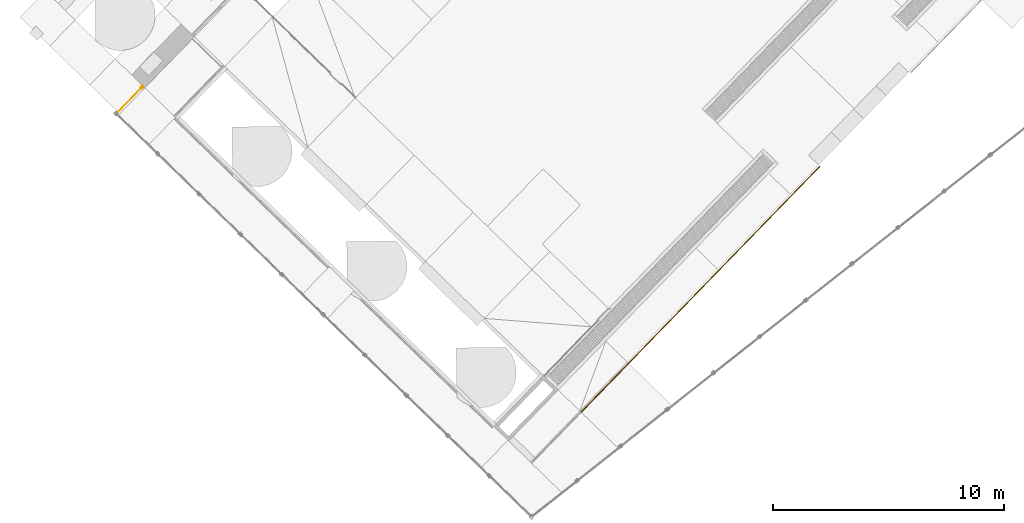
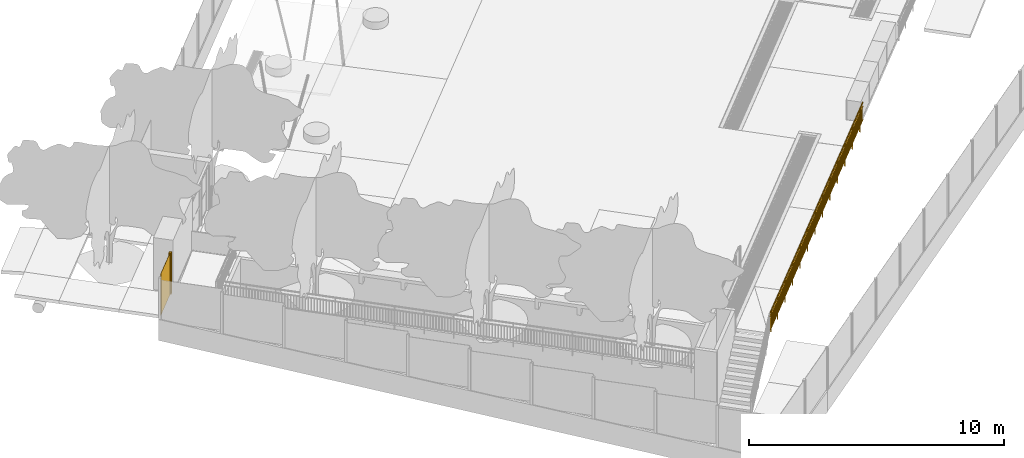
# One storey, part 25 of 37: 2 railings.
"""IFC2X3 building model written with IfcOpenShell, lengths in centimetres."""

from ifc_helpers import new_model, entity, si_unit, converted_unit, derived_unit, direction, frame, frame_2d, origin, origin_2d_with_axis, place, context, subcontext, project, spatial, rectangle, circle, extrude, material, material_list, element, save


model = new_model("IFC2X3")

# Units and contexts
model_context = context("Model", 3, precision=0.001, world=origin(), true_north=direction((0.717475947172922, 0.696583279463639)))
body_context = subcontext(model_context, "Body", "Model", "MODEL_VIEW")
ifc_project = project(units=[si_unit("LENGTHUNIT", "METRE", prefix="CENTI"), si_unit("AREAUNIT", "SQUARE_METRE"), si_unit("VOLUMEUNIT", "CUBIC_METRE"), converted_unit("PLANEANGLEUNIT", "DEGREE", entity("IfcRatioMeasure", 0.0174532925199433), si_unit("PLANEANGLEUNIT", "RADIAN"), dimensions=[0, 0, 0, 0, 0, 0, 0]), si_unit("MASSUNIT", "GRAM", prefix="KILO"), derived_unit("MASSDENSITYUNIT", [(si_unit("MASSUNIT", "GRAM", prefix="KILO"), 1), (si_unit("LENGTHUNIT", "METRE"), -3)]), si_unit("TIMEUNIT", "SECOND"), si_unit("FREQUENCYUNIT", "HERTZ"), si_unit("THERMODYNAMICTEMPERATUREUNIT", "DEGREE_CELSIUS"), derived_unit("THERMALTRANSMITTANCEUNIT", [(si_unit("MASSUNIT", "GRAM", prefix="KILO"), 1), (si_unit("THERMODYNAMICTEMPERATUREUNIT", "KELVIN"), -1), (si_unit("TIMEUNIT", "SECOND"), -3)]), derived_unit("VOLUMETRICFLOWRATEUNIT", [(si_unit("LENGTHUNIT", "METRE"), 3), (si_unit("TIMEUNIT", "SECOND"), -1)]), si_unit("ELECTRICCURRENTUNIT", "AMPERE"), si_unit("ELECTRICVOLTAGEUNIT", "VOLT"), si_unit("POWERUNIT", "WATT"), si_unit("FORCEUNIT", "NEWTON", prefix="KILO"), si_unit("ILLUMINANCEUNIT", "LUX"), si_unit("LUMINOUSFLUXUNIT", "LUMEN"), si_unit("LUMINOUSINTENSITYUNIT", "CANDELA"), derived_unit("USERDEFINED", [(si_unit("MASSUNIT", "GRAM", prefix="KILO"), -1), (si_unit("LENGTHUNIT", "METRE"), -2), (si_unit("TIMEUNIT", "SECOND"), 3), (si_unit("LUMINOUSFLUXUNIT", "LUMEN"), 1)]), derived_unit("LINEARVELOCITYUNIT", [(si_unit("LENGTHUNIT", "METRE"), 1), (si_unit("TIMEUNIT", "SECOND"), -1)]), si_unit("PRESSUREUNIT", "PASCAL"), derived_unit("USERDEFINED", [(si_unit("LENGTHUNIT", "METRE"), -2), (si_unit("MASSUNIT", "GRAM", prefix="KILO"), 1), (si_unit("TIMEUNIT", "SECOND"), -2)])], contexts=[model_context])

# Site, building, storey
site_placement = place(None, frame((0.0, 0.0, 0.0), z_axis=(0.0, 0.0, 1.0), x_axis=(0.696583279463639, 0.717475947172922, 0.0)))
site = spatial("IfcSite", under=ifc_project, at=site_placement, Name="Surface", CompositionType="ELEMENT")
building_placement = place(site_placement, origin())
building = spatial("IfcBuilding", under=site, at=building_placement, CompositionType="ELEMENT")
storey_placement = place(building_placement, origin())
storey = spatial("IfcBuildingStorey", under=building, at=storey_placement, Name="Nivel 0.00", CompositionType="ELEMENT", Elevation=0.0)

# Railings
ifc_material_1 = material(Name="Aluminum")
railing_1_placement = place(storey_placement, origin())
element("IfcRailing", 1, at=railing_1_placement, inside=storey, material=ifc_material_1, Name="Railing:BARANDA_RAMPA_1000mm", ObjectType="Railing:BARANDA_RAMPA_1000mm", PredefinedType="NOTDEFINED", context=body_context, shape_type="SweptSolid", body=[
    extrude(rectangle(XDim=1.2, YDim=4.99999999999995, at=frame_2d((2.70894418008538e-14, 0.0), x_axis=(1.0, 0.0))), frame((-429.756929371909, -1572.80755383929, 165.0)), (0.0, 0.0, 1.0), 63.7999999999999),
    extrude(rectangle(XDim=1.2, YDim=4.99999999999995, at=frame_2d((2.70894418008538e-14, 0.0), x_axis=(1.0, 0.0))), frame((-441.756929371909, -1572.80755383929, 165.0)), (0.0, 0.0, 1.0), 63.7999999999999),
    extrude(rectangle(XDim=1.2, YDim=4.99999999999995, at=frame_2d((2.70894418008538e-14, 0.0), x_axis=(1.0, 0.0))), frame((-453.756929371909, -1572.80755383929, 165.0)), (0.0, 0.0, 1.0), 63.7999999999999),
    extrude(rectangle(XDim=1.2, YDim=4.99999999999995, at=frame_2d((2.70894418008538e-14, 0.0), x_axis=(1.0, 0.0))), frame((-465.756929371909, -1572.80755383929, 135.0)), (0.0, 0.0, 1.0), 110.0),
    extrude(rectangle(XDim=1.2, YDim=4.99999999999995, at=frame_2d((2.70894418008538e-14, 0.0), x_axis=(1.0, 0.0))), frame((-477.756929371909, -1572.80755383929, 165.0)), (0.0, 0.0, 1.0), 63.7999999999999),
    extrude(rectangle(XDim=1.20000000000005, YDim=4.99999999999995, at=frame_2d((5.41233724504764e-14, 0.0), x_axis=(1.0, 0.0))), frame((-489.756929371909, -1572.80755383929, 165.0)), (0.0, 0.0, 1.0), 63.7999999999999),
    extrude(rectangle(XDim=1.20000000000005, YDim=4.99999999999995, at=frame_2d((5.41233724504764e-14, 0.0), x_axis=(1.0, 0.0))), frame((-501.756929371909, -1572.80755383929, 165.0)), (0.0, 0.0, 1.0), 63.7999999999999),
    extrude(rectangle(XDim=1.20000000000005, YDim=4.99999999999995, at=frame_2d((5.41233724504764e-14, 0.0), x_axis=(1.0, 0.0))), frame((-513.756929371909, -1572.80755383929, 165.0)), (0.0, 0.0, 1.0), 63.7999999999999),
    extrude(rectangle(XDim=1.20000000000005, YDim=4.99999999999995, at=frame_2d((5.41233724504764e-14, 0.0), x_axis=(1.0, 0.0))), frame((-525.756929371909, -1572.80755383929, 165.0)), (0.0, 0.0, 1.0), 63.7999999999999),
    extrude(rectangle(XDim=1.20000000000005, YDim=4.99999999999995, at=frame_2d((5.41233724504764e-14, 0.0), x_axis=(1.0, 0.0))), frame((-537.756929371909, -1572.80755383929, 165.0)), (0.0, 0.0, 1.0), 63.7999999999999),
    extrude(rectangle(XDim=1.20000000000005, YDim=4.99999999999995, at=frame_2d((5.41233724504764e-14, 0.0), x_axis=(1.0, 0.0))), frame((-549.756929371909, -1572.80755383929, 165.0)), (0.0, 0.0, 1.0), 63.7999999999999),
    extrude(rectangle(XDim=1.20000000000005, YDim=4.99999999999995, at=frame_2d((5.41233724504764e-14, 0.0), x_axis=(1.0, 0.0))), frame((-561.756929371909, -1572.80755383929, 165.0)), (0.0, 0.0, 1.0), 63.7999999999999),
    extrude(rectangle(XDim=1.20000000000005, YDim=4.99999999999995, at=frame_2d((5.41233724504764e-14, 0.0), x_axis=(1.0, 0.0))), frame((-573.756929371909, -1572.80755383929, 165.0)), (0.0, 0.0, 1.0), 63.7999999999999),
    extrude(rectangle(XDim=1.20000000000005, YDim=4.99999999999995, at=frame_2d((5.41233724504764e-14, 2.16715534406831e-13), x_axis=(1.0, 0.0))), frame((-585.756929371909, -1572.80755383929, 135.0)), (0.0, 0.0, 1.0), 110.0),
    extrude(rectangle(XDim=1.20000000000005, YDim=4.99999999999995, at=frame_2d((5.41233724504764e-14, 2.16715534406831e-13), x_axis=(1.0, 0.0))), frame((-597.756929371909, -1572.80755383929, 165.0)), (0.0, 0.0, 1.0), 63.7999999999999),
    extrude(rectangle(XDim=1.20000000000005, YDim=4.99999999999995, at=frame_2d((5.41233724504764e-14, 2.16715534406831e-13), x_axis=(1.0, 0.0))), frame((-609.756929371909, -1572.80755383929, 165.0)), (0.0, 0.0, 1.0), 63.7999999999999),
    extrude(rectangle(XDim=1.20000000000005, YDim=4.99999999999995, at=frame_2d((5.41233724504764e-14, 2.16715534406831e-13), x_axis=(1.0, 0.0))), frame((-621.756929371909, -1572.80755383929, 165.0)), (0.0, 0.0, 1.0), 63.7999999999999),
    extrude(rectangle(XDim=1.20000000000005, YDim=4.99999999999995, at=frame_2d((5.41233724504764e-14, 2.16715534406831e-13), x_axis=(1.0, 0.0))), frame((-633.756929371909, -1572.80755383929, 165.0)), (0.0, 0.0, 1.0), 63.7999999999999),
    extrude(rectangle(XDim=1.20000000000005, YDim=4.99999999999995, at=frame_2d((5.41233724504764e-14, 2.16715534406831e-13), x_axis=(1.0, 0.0))), frame((-645.756929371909, -1572.80755383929, 165.0)), (0.0, 0.0, 1.0), 63.7999999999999),
    extrude(rectangle(XDim=1.20000000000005, YDim=4.99999999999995, at=frame_2d((5.41233724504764e-14, 2.16715534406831e-13), x_axis=(1.0, 0.0))), frame((-657.756929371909, -1572.80755383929, 165.0)), (0.0, 0.0, 1.0), 63.7999999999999),
    extrude(rectangle(XDim=1.20000000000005, YDim=4.99999999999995, at=frame_2d((5.41233724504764e-14, 2.16715534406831e-13), x_axis=(1.0, 0.0))), frame((-669.756929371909, -1572.80755383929, 165.0)), (0.0, 0.0, 1.0), 63.7999999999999),
    extrude(rectangle(XDim=1.20000000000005, YDim=4.99999999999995, at=frame_2d((-5.41233724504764e-14, 2.16715534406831e-13), x_axis=(1.0, 0.0))), frame((-681.756929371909, -1572.80755383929, 165.0)), (0.0, 0.0, 1.0), 63.7999999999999),
    extrude(rectangle(XDim=1.20000000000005, YDim=4.99999999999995, at=frame_2d((-5.41233724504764e-14, 2.16715534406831e-13), x_axis=(1.0, 0.0))), frame((-693.756929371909, -1572.80755383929, 165.0)), (0.0, 0.0, 1.0), 63.7999999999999),
    extrude(rectangle(XDim=1.20000000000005, YDim=4.99999999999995, at=frame_2d((5.41233724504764e-14, 2.16715534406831e-13), x_axis=(1.0, 0.0))), frame((-705.756929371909, -1572.80755383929, 135.0)), (0.0, 0.0, 1.0), 110.0),
    extrude(rectangle(XDim=1.20000000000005, YDim=4.99999999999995, at=frame_2d((5.41233724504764e-14, 2.16715534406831e-13), x_axis=(1.0, 0.0))), frame((-717.756929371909, -1572.80755383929, 165.0)), (0.0, 0.0, 1.0), 63.7999999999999),
    extrude(rectangle(XDim=1.20000000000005, YDim=4.99999999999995, at=frame_2d((5.41233724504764e-14, 2.16715534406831e-13), x_axis=(1.0, 0.0))), frame((-729.756929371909, -1572.80755383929, 165.0)), (0.0, 0.0, 1.0), 63.7999999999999),
    extrude(rectangle(XDim=1.20000000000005, YDim=4.99999999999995, at=frame_2d((5.41233724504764e-14, 2.16715534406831e-13), x_axis=(1.0, 0.0))), frame((-741.756929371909, -1572.80755383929, 165.0)), (0.0, 0.0, 1.0), 63.7999999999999),
    extrude(rectangle(XDim=1.20000000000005, YDim=4.99999999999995, at=frame_2d((5.41233724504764e-14, 2.16715534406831e-13), x_axis=(1.0, 0.0))), frame((-753.756929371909, -1572.80755383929, 165.0)), (0.0, 0.0, 1.0), 63.7999999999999),
    extrude(rectangle(XDim=1.20000000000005, YDim=4.99999999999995, at=frame_2d((-5.41233724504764e-14, 2.16715534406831e-13), x_axis=(1.0, 0.0))), frame((-765.756929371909, -1572.80755383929, 165.0)), (0.0, 0.0, 1.0), 63.7999999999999),
    extrude(rectangle(XDim=1.20000000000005, YDim=4.99999999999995, at=frame_2d((5.41233724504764e-14, 2.16715534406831e-13), x_axis=(1.0, 0.0))), frame((-777.756929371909, -1572.80755383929, 165.0)), (0.0, 0.0, 1.0), 63.7999999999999),
    extrude(rectangle(XDim=1.20000000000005, YDim=4.99999999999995, at=frame_2d((5.41233724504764e-14, 2.16715534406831e-13), x_axis=(1.0, 0.0))), frame((-789.756929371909, -1572.80755383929, 165.0)), (0.0, 0.0, 1.0), 63.7999999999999),
    extrude(rectangle(XDim=1.20000000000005, YDim=4.99999999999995, at=frame_2d((5.41233724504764e-14, 2.16715534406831e-13), x_axis=(1.0, 0.0))), frame((-801.756929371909, -1572.80755383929, 165.0)), (0.0, 0.0, 1.0), 63.7999999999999),
    extrude(rectangle(XDim=1.20000000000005, YDim=4.99999999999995, at=frame_2d((5.41233724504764e-14, 2.16715534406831e-13), x_axis=(1.0, 0.0))), frame((-813.756929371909, -1572.80755383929, 165.0)), (0.0, 0.0, 1.0), 63.7999999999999),
    extrude(rectangle(XDim=1.20000000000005, YDim=4.99999999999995, at=frame_2d((5.41233724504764e-14, 2.16715534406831e-13), x_axis=(1.0, 0.0))), frame((-825.756929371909, -1572.80755383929, 135.0)), (0.0, 0.0, 1.0), 110.0),
    extrude(rectangle(XDim=1.20000000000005, YDim=4.99999999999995, at=frame_2d((-5.41233724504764e-14, 2.16715534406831e-13), x_axis=(1.0, 0.0))), frame((-837.756929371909, -1572.80755383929, 165.0)), (0.0, 0.0, 1.0), 63.7999999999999),
    extrude(rectangle(XDim=1.20000000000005, YDim=4.99999999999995, at=frame_2d((-5.41233724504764e-14, 2.16715534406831e-13), x_axis=(1.0, 0.0))), frame((-849.756929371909, -1572.80755383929, 165.0)), (0.0, 0.0, 1.0), 63.7999999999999),
    extrude(rectangle(XDim=1.20000000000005, YDim=4.99999999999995, at=frame_2d((5.41233724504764e-14, 2.16715534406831e-13), x_axis=(1.0, 0.0))), frame((-861.756929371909, -1572.80755383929, 165.0)), (0.0, 0.0, 1.0), 63.7999999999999),
    extrude(rectangle(XDim=1.20000000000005, YDim=4.99999999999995, at=frame_2d((5.41233724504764e-14, 0.0), x_axis=(1.0, 0.0))), frame((-873.756929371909, -1572.80755383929, 165.0)), (0.0, 0.0, 1.0), 63.7999999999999),
    extrude(rectangle(XDim=1.20000000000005, YDim=4.99999999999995, at=frame_2d((5.41233724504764e-14, 0.0), x_axis=(1.0, 0.0))), frame((-885.756929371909, -1572.80755383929, 165.0)), (0.0, 0.0, 1.0), 63.7999999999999),
    extrude(rectangle(XDim=1.20000000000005, YDim=4.99999999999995, at=frame_2d((5.41233724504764e-14, 0.0), x_axis=(1.0, 0.0))), frame((-897.756929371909, -1572.80755383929, 165.0)), (0.0, 0.0, 1.0), 63.7999999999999),
    extrude(rectangle(XDim=1.20000000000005, YDim=4.99999999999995, at=frame_2d((5.41233724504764e-14, 0.0), x_axis=(1.0, 0.0))), frame((-909.756929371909, -1572.80755383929, 165.0)), (0.0, 0.0, 1.0), 63.7999999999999),
    extrude(rectangle(XDim=1.20000000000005, YDim=4.99999999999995, at=frame_2d((-5.41233724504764e-14, 0.0), x_axis=(1.0, 0.0))), frame((-921.756929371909, -1572.80755383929, 165.0)), (0.0, 0.0, 1.0), 63.7999999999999),
    extrude(rectangle(XDim=1.20000000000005, YDim=4.99999999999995, at=frame_2d((-5.41233724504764e-14, 0.0), x_axis=(1.0, 0.0))), frame((-933.756929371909, -1572.80755383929, 165.0)), (0.0, 0.0, 1.0), 63.7999999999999),
    extrude(rectangle(XDim=1.20000000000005, YDim=4.99999999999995, at=frame_2d((5.41233724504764e-14, 0.0), x_axis=(1.0, 0.0))), frame((-945.756929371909, -1572.80755383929, 135.0)), (0.0, 0.0, 1.0), 110.0),
    extrude(rectangle(XDim=1.20000000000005, YDim=4.99999999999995, at=frame_2d((5.41233724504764e-14, 0.0), x_axis=(1.0, 0.0))), frame((-957.756929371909, -1572.80755383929, 165.0)), (0.0, 0.0, 1.0), 63.7999999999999),
    extrude(rectangle(XDim=1.20000000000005, YDim=4.99999999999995, at=frame_2d((-5.41233724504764e-14, 0.0), x_axis=(1.0, 0.0))), frame((-969.756929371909, -1572.80755383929, 165.0)), (0.0, 0.0, 1.0), 63.7999999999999),
    extrude(rectangle(XDim=1.19999999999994, YDim=4.99999999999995, at=frame_2d((-1.08302256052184e-13, 0.0), x_axis=(1.0, 0.0))), frame((-981.756929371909, -1572.80755383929, 165.0)), (0.0, 0.0, 1.0), 63.7999999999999),
    extrude(rectangle(XDim=1.19999999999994, YDim=4.99999999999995, at=frame_2d((1.08302256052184e-13, 0.0), x_axis=(1.0, 0.0))), frame((-993.756929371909, -1572.80755383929, 165.0)), (0.0, 0.0, 1.0), 63.7999999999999),
    extrude(rectangle(XDim=1.19999999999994, YDim=4.99999999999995, at=frame_2d((1.08302256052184e-13, 0.0), x_axis=(1.0, 0.0))), frame((-1005.75692937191, -1572.80755383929, 165.0)), (0.0, 0.0, 1.0), 63.7999999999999),
    extrude(rectangle(XDim=1.19999999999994, YDim=4.99999999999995, at=frame_2d((-1.08302256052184e-13, 0.0), x_axis=(1.0, 0.0))), frame((-1017.75692937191, -1572.80755383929, 165.0)), (0.0, 0.0, 1.0), 63.7999999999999),
    extrude(rectangle(XDim=1.19999999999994, YDim=4.99999999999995, at=frame_2d((-1.08302256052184e-13, 0.0), x_axis=(1.0, 0.0))), frame((-1029.75692937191, -1572.80755383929, 165.0)), (0.0, 0.0, 1.0), 63.7999999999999),
    extrude(rectangle(XDim=1.19999999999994, YDim=4.99999999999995, at=frame_2d((1.08302256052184e-13, 0.0), x_axis=(1.0, 0.0))), frame((-1041.75692937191, -1572.80755383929, 165.0)), (0.0, 0.0, 1.0), 63.7999999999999),
    extrude(rectangle(XDim=1.19999999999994, YDim=4.99999999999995, at=frame_2d((-1.08302256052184e-13, 0.0), x_axis=(1.0, 0.0))), frame((-1053.75692937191, -1572.80755383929, 165.0)), (0.0, 0.0, 1.0), 63.7999999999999),
    extrude(rectangle(XDim=1.19999999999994, YDim=4.99999999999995, at=frame_2d((-1.08302256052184e-13, 0.0), x_axis=(1.0, 0.0))), frame((-1065.75692937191, -1572.80755383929, 135.0)), (0.0, 0.0, 1.0), 110.0),
    extrude(rectangle(XDim=1.19999999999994, YDim=4.99999999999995, at=frame_2d((-1.08302256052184e-13, 0.0), x_axis=(1.0, 0.0))), frame((-1077.75692937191, -1572.80755383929, 165.0)), (0.0, 0.0, 1.0), 63.7999999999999),
    extrude(rectangle(XDim=1.19999999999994, YDim=4.99999999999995, at=frame_2d((1.08302256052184e-13, 0.0), x_axis=(1.0, 0.0))), frame((-1089.75692937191, -1572.80755383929, 165.0)), (0.0, 0.0, 1.0), 63.7999999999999),
    extrude(rectangle(XDim=1.19999999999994, YDim=4.99999999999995, at=frame_2d((-1.08302256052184e-13, 0.0), x_axis=(1.0, 0.0))), frame((-1101.75692937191, -1572.80755383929, 165.0)), (0.0, 0.0, 1.0), 63.7999999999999),
    extrude(rectangle(XDim=1.19999999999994, YDim=4.99999999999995, at=frame_2d((-1.08302256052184e-13, 0.0), x_axis=(1.0, 0.0))), frame((-1113.75692937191, -1572.80755383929, 165.0)), (0.0, 0.0, 1.0), 63.7999999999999),
    extrude(rectangle(XDim=1.19999999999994, YDim=4.99999999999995, at=frame_2d((1.08302256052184e-13, 0.0), x_axis=(1.0, 0.0))), frame((-1125.75692937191, -1572.80755383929, 165.0)), (0.0, 0.0, 1.0), 63.7999999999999),
    extrude(rectangle(XDim=1.19999999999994, YDim=4.99999999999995, at=frame_2d((-1.08302256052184e-13, 0.0), x_axis=(1.0, 0.0))), frame((-1137.75692937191, -1572.80755383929, 165.0)), (0.0, 0.0, 1.0), 63.7999999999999),
    extrude(rectangle(XDim=1.19999999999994, YDim=4.99999999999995, at=frame_2d((-1.08302256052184e-13, 0.0), x_axis=(1.0, 0.0))), frame((-1149.75692937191, -1572.80755383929, 165.0)), (0.0, 0.0, 1.0), 63.7999999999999),
    extrude(rectangle(XDim=1.19999999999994, YDim=4.99999999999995, at=frame_2d((1.08302256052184e-13, 0.0), x_axis=(1.0, 0.0))), frame((-1161.75692937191, -1572.80755383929, 165.0)), (0.0, 0.0, 1.0), 63.7999999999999),
    extrude(rectangle(XDim=1.19999999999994, YDim=4.99999999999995, at=frame_2d((-1.08302256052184e-13, 0.0), x_axis=(1.0, 0.0))), frame((-1173.75692937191, -1572.80755383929, 165.0)), (0.0, 0.0, 1.0), 63.7999999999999),
    extrude(rectangle(XDim=1.19999999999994, YDim=4.99999999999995, at=frame_2d((-1.08302256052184e-13, 0.0), x_axis=(1.0, 0.0))), frame((-1185.75692937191, -1572.80755383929, 135.0)), (0.0, 0.0, 1.0), 110.0),
    extrude(rectangle(XDim=1.19999999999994, YDim=4.99999999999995, at=frame_2d((-1.08302256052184e-13, 0.0), x_axis=(1.0, 0.0))), frame((-1197.75692937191, -1572.80755383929, 165.0)), (0.0, 0.0, 1.0), 63.7999999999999),
    extrude(rectangle(XDim=1.19999999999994, YDim=4.99999999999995, at=frame_2d((1.08302256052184e-13, 0.0), x_axis=(1.0, 0.0))), frame((-1209.75692937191, -1572.80755383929, 165.0)), (0.0, 0.0, 1.0), 63.7999999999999),
    extrude(rectangle(XDim=1.19999999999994, YDim=4.99999999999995, at=frame_2d((-1.08302256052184e-13, 0.0), x_axis=(1.0, 0.0))), frame((-1221.75692937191, -1572.80755383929, 165.0)), (0.0, 0.0, 1.0), 63.7999999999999),
    extrude(rectangle(XDim=1.19999999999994, YDim=4.99999999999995, at=frame_2d((-1.08302256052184e-13, 0.0), x_axis=(1.0, 0.0))), frame((-1233.75692937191, -1572.80755383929, 165.0)), (0.0, 0.0, 1.0), 63.7999999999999),
    extrude(rectangle(XDim=1.19999999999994, YDim=4.99999999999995, at=frame_2d((1.08302256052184e-13, 0.0), x_axis=(1.0, 0.0))), frame((-1245.75692937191, -1572.80755383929, 165.0)), (0.0, 0.0, 1.0), 63.7999999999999),
    extrude(rectangle(XDim=1.19999999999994, YDim=4.99999999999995, at=frame_2d((-1.08302256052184e-13, 0.0), x_axis=(1.0, 0.0))), frame((-1257.75692937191, -1572.80755383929, 165.0)), (0.0, 0.0, 1.0), 63.7999999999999),
    extrude(rectangle(XDim=1.19999999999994, YDim=4.99999999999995, at=frame_2d((-1.08302256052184e-13, 0.0), x_axis=(1.0, 0.0))), frame((-1269.75692937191, -1572.80755383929, 165.0)), (0.0, 0.0, 1.0), 63.7999999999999),
    extrude(rectangle(XDim=1.19999999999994, YDim=4.99999999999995, at=frame_2d((1.08302256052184e-13, 0.0), x_axis=(1.0, 0.0))), frame((-1281.75692937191, -1572.80755383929, 165.0)), (0.0, 0.0, 1.0), 63.7999999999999),
    extrude(rectangle(XDim=1.19999999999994, YDim=4.99999999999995, at=frame_2d((-1.08302256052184e-13, 0.0), x_axis=(1.0, 0.0))), frame((-1293.75692937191, -1572.80755383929, 165.0)), (0.0, 0.0, 1.0), 63.7999999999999),
    extrude(rectangle(XDim=1.19999999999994, YDim=4.99999999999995, at=frame_2d((-1.08302256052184e-13, 0.0), x_axis=(1.0, 0.0))), frame((-1305.75692937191, -1572.80755383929, 135.0)), (0.0, 0.0, 1.0), 110.0),
    extrude(rectangle(XDim=1.19999999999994, YDim=4.99999999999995, at=frame_2d((-1.08302256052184e-13, 0.0), x_axis=(1.0, 0.0))), frame((-1317.75692937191, -1572.80755383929, 165.0)), (0.0, 0.0, 1.0), 63.7999999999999),
    extrude(rectangle(XDim=1.19999999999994, YDim=4.99999999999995, at=frame_2d((1.08302256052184e-13, 0.0), x_axis=(1.0, 0.0))), frame((-1329.75692937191, -1572.80755383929, 165.0)), (0.0, 0.0, 1.0), 63.7999999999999),
    extrude(rectangle(XDim=1.19999999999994, YDim=4.99999999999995, at=frame_2d((1.08302256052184e-13, 0.0), x_axis=(1.0, 0.0))), frame((-1341.75692937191, -1572.80755383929, 165.0)), (0.0, 0.0, 1.0), 63.7999999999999),
    extrude(rectangle(XDim=1.19999999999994, YDim=4.99999999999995, at=frame_2d((-1.08302256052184e-13, 0.0), x_axis=(1.0, 0.0))), frame((-1353.75692937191, -1572.80755383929, 165.0)), (0.0, 0.0, 1.0), 63.7999999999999),
    extrude(rectangle(XDim=1.19999999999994, YDim=4.99999999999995, at=frame_2d((1.08302256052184e-13, 0.0), x_axis=(1.0, 0.0))), frame((-1365.75692937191, -1572.80755383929, 165.0)), (0.0, 0.0, 1.0), 63.7999999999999),
    extrude(rectangle(XDim=1.19999999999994, YDim=4.99999999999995, at=frame_2d((-1.08302256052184e-13, 0.0), x_axis=(1.0, 0.0))), frame((-1377.75692937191, -1572.80755383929, 165.0)), (0.0, 0.0, 1.0), 63.7999999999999),
    extrude(rectangle(XDim=1.19999999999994, YDim=4.99999999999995, at=frame_2d((-1.08302256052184e-13, 0.0), x_axis=(1.0, 0.0))), frame((-1389.75692937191, -1572.80755383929, 165.0)), (0.0, 0.0, 1.0), 63.7999999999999),
    extrude(rectangle(XDim=1.19999999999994, YDim=4.99999999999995, at=frame_2d((1.08302256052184e-13, 0.0), x_axis=(1.0, 0.0))), frame((-1401.75692937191, -1572.80755383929, 165.0)), (0.0, 0.0, 1.0), 63.7999999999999),
    extrude(rectangle(XDim=1.19999999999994, YDim=4.99999999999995, at=frame_2d((-1.08302256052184e-13, 0.0), x_axis=(1.0, 0.0))), frame((-1413.75692937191, -1572.80755383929, 165.0)), (0.0, 0.0, 1.0), 63.7999999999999),
    extrude(rectangle(XDim=1.19999999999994, YDim=4.99999999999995, at=frame_2d((1.08302256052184e-13, 0.0), x_axis=(1.0, 0.0))), frame((-1425.75692937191, -1572.80755383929, 135.0)), (0.0, 0.0, 1.0), 110.0),
    extrude(rectangle(XDim=1.19999999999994, YDim=4.99999999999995, at=frame_2d((-1.08302256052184e-13, 0.0), x_axis=(1.0, 0.0))), frame((-1437.75692937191, -1572.80755383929, 165.0)), (0.0, 0.0, 1.0), 63.7999999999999),
    extrude(rectangle(XDim=1.19999999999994, YDim=4.99999999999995, at=frame_2d((1.08302256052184e-13, 0.0), x_axis=(1.0, 0.0))), frame((-1449.75692937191, -1572.80755383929, 165.0)), (0.0, 0.0, 1.0), 63.7999999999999),
    extrude(rectangle(XDim=1.19999999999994, YDim=4.99999999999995, at=frame_2d((-1.08302256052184e-13, 0.0), x_axis=(1.0, 0.0))), frame((-1461.75692937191, -1572.80755383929, 165.0)), (0.0, 0.0, 1.0), 63.7999999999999),
    extrude(rectangle(XDim=1.19999999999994, YDim=4.99999999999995, at=frame_2d((-1.08302256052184e-13, 0.0), x_axis=(1.0, 0.0))), frame((-1473.75692937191, -1572.80755383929, 165.0)), (0.0, 0.0, 1.0), 63.7999999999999),
    extrude(rectangle(XDim=1.19999999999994, YDim=4.99999999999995, at=frame_2d((1.08302256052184e-13, 0.0), x_axis=(1.0, 0.0))), frame((-1485.75692937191, -1572.80755383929, 165.0)), (0.0, 0.0, 1.0), 63.7999999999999),
    extrude(rectangle(XDim=1.19999999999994, YDim=4.99999999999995, at=frame_2d((-1.08302256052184e-13, 0.0), x_axis=(1.0, 0.0))), frame((-1497.75692937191, -1572.80755383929, 165.0)), (0.0, 0.0, 1.0), 63.7999999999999),
    extrude(rectangle(XDim=1.19999999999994, YDim=4.99999999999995, at=frame_2d((1.08302256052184e-13, 0.0), x_axis=(1.0, 0.0))), frame((-1509.75692937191, -1572.80755383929, 165.0)), (0.0, 0.0, 1.0), 63.7999999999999),
    extrude(rectangle(XDim=1.19999999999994, YDim=4.99999999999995, at=frame_2d((1.08302256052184e-13, 0.0), x_axis=(1.0, 0.0))), frame((-1521.75692937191, -1572.80755383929, 165.0)), (0.0, 0.0, 1.0), 63.7999999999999),
    extrude(rectangle(XDim=1.19999999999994, YDim=4.99999999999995, at=frame_2d((-1.08302256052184e-13, 0.0), x_axis=(1.0, 0.0))), frame((-1533.75692937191, -1572.80755383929, 165.0)), (0.0, 0.0, 1.0), 63.7999999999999),
    extrude(rectangle(XDim=1.19999999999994, YDim=4.99999999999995, at=frame_2d((-1.08302256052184e-13, 0.0), x_axis=(1.0, 0.0))), frame((-1545.75692937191, -1572.80755383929, 135.0)), (0.0, 0.0, 1.0), 110.0),
    extrude(rectangle(XDim=1.19999999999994, YDim=4.99999999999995, at=frame_2d((-1.08302256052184e-13, 0.0), x_axis=(1.0, 0.0))), frame((-1557.75692937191, -1572.80755383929, 165.0)), (0.0, 0.0, 1.0), 63.7999999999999),
    extrude(rectangle(XDim=1.19999999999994, YDim=4.99999999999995, at=frame_2d((1.08302256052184e-13, 0.0), x_axis=(1.0, 0.0))), frame((-1569.75692937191, -1572.80755383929, 165.0)), (0.0, 0.0, 1.0), 63.7999999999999),
    extrude(rectangle(XDim=1.19999999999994, YDim=4.99999999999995, at=frame_2d((-1.08302256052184e-13, 0.0), x_axis=(1.0, 0.0))), frame((-1581.75692937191, -1572.80755383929, 165.0)), (0.0, 0.0, 1.0), 63.7999999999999),
    extrude(rectangle(XDim=1.19999999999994, YDim=4.99999999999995, at=frame_2d((1.08302256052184e-13, 0.0), x_axis=(1.0, 0.0))), frame((-1593.75692937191, -1572.80755383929, 165.0)), (0.0, 0.0, 1.0), 63.7999999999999),
    extrude(rectangle(XDim=1.19999999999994, YDim=4.99999999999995, at=frame_2d((1.08302256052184e-13, 0.0), x_axis=(1.0, 0.0))), frame((-1605.75692937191, -1572.80755383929, 165.0)), (0.0, 0.0, 1.0), 63.7999999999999),
    extrude(rectangle(XDim=1.19999999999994, YDim=4.99999999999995, at=frame_2d((-1.08302256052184e-13, 0.0), x_axis=(1.0, 0.0))), frame((-1617.75692937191, -1572.80755383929, 165.0)), (0.0, 0.0, 1.0), 63.7999999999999),
    extrude(rectangle(XDim=1.19999999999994, YDim=4.99999999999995, at=frame_2d((-1.08302256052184e-13, 0.0), x_axis=(1.0, 0.0))), frame((-1629.75692937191, -1572.80755383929, 165.0)), (0.0, 0.0, 1.0), 63.7999999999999),
    extrude(rectangle(XDim=1.19999999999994, YDim=4.99999999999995, at=frame_2d((1.08302256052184e-13, 0.0), x_axis=(1.0, 0.0))), frame((-1641.75692937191, -1572.80755383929, 165.0)), (0.0, 0.0, 1.0), 63.7999999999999),
    extrude(rectangle(XDim=1.19999999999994, YDim=4.99999999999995, at=frame_2d((1.08302256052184e-13, 0.0), x_axis=(1.0, 0.0))), frame((-1653.75692937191, -1572.80755383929, 165.0)), (0.0, 0.0, 1.0), 63.7999999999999),
    extrude(rectangle(XDim=1.19999999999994, YDim=4.99999999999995, at=frame_2d((-1.08302256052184e-13, 0.0), x_axis=(1.0, 0.0))), frame((-1665.75692937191, -1572.80755383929, 135.0)), (0.0, 0.0, 1.0), 110.0),
    extrude(rectangle(XDim=1.19999999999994, YDim=4.99999999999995, at=frame_2d((1.08302256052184e-13, 0.0), x_axis=(1.0, 0.0))), frame((-1677.75692937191, -1572.80755383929, 165.0)), (0.0, 0.0, 1.0), 63.7999999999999),
    extrude(rectangle(XDim=1.19999999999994, YDim=4.99999999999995, at=frame_2d((1.08302256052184e-13, 0.0), x_axis=(1.0, 0.0))), frame((-1689.75692937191, -1572.80755383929, 165.0)), (0.0, 0.0, 1.0), 63.7999999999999),
    extrude(rectangle(XDim=1.19999999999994, YDim=4.99999999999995, at=frame_2d((-1.08302256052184e-13, 0.0), x_axis=(1.0, 0.0))), frame((-1701.75692937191, -1572.80755383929, 165.0)), (0.0, 0.0, 1.0), 63.7999999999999),
    extrude(rectangle(XDim=1.19999999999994, YDim=4.99999999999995, at=frame_2d((-1.08302256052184e-13, 0.0), x_axis=(1.0, 0.0))), frame((-1713.75692937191, -1572.80755383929, 165.0)), (0.0, 0.0, 1.0), 63.7999999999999),
    extrude(rectangle(XDim=1.19999999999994, YDim=4.99999999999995, at=frame_2d((1.08302256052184e-13, 0.0), x_axis=(1.0, 0.0))), frame((-1725.75692937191, -1572.80755383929, 165.0)), (0.0, 0.0, 1.0), 63.7999999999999),
    extrude(rectangle(XDim=1.19999999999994, YDim=4.99999999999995, at=frame_2d((1.08302256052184e-13, 0.0), x_axis=(1.0, 0.0))), frame((-1737.75692937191, -1572.80755383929, 165.0)), (0.0, 0.0, 1.0), 63.7999999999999),
    extrude(rectangle(XDim=1.19999999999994, YDim=4.99999999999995, at=frame_2d((-1.08302256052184e-13, 0.0), x_axis=(1.0, 0.0))), frame((-1749.75692937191, -1572.80755383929, 165.0)), (0.0, 0.0, 1.0), 63.7999999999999),
    extrude(rectangle(XDim=1.19999999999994, YDim=4.99999999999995, at=frame_2d((1.08302256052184e-13, 0.0), x_axis=(1.0, 0.0))), frame((-1761.75692937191, -1572.80755383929, 165.0)), (0.0, 0.0, 1.0), 63.7999999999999),
    extrude(rectangle(XDim=1.19999999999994, YDim=4.99999999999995, at=frame_2d((1.08302256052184e-13, 0.0), x_axis=(1.0, 0.0))), frame((-1773.75692937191, -1572.80755383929, 165.0)), (0.0, 0.0, 1.0), 63.7999999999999),
    extrude(rectangle(XDim=1.19999999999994, YDim=4.99999999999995, at=frame_2d((-1.08302256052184e-13, 0.0), x_axis=(1.0, 0.0))), frame((-1785.75692937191, -1572.80755383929, 135.0)), (0.0, 0.0, 1.0), 110.0),
    extrude(rectangle(XDim=1.19999999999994, YDim=4.99999999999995, at=frame_2d((1.08302256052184e-13, 0.0), x_axis=(1.0, 0.0))), frame((-1797.75692937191, -1572.80755383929, 165.0)), (0.0, 0.0, 1.0), 63.7999999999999),
    extrude(rectangle(XDim=1.19999999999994, YDim=4.99999999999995, at=frame_2d((1.08302256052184e-13, 0.0), x_axis=(1.0, 0.0))), frame((-1809.75692937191, -1572.80755383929, 165.0)), (0.0, 0.0, 1.0), 63.7999999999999),
    extrude(rectangle(XDim=1.19999999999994, YDim=4.99999999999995, at=frame_2d((1.08302256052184e-13, 0.0), x_axis=(1.0, 0.0))), frame((-1821.75692937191, -1572.80755383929, 165.0)), (0.0, 0.0, 1.0), 63.7999999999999),
    extrude(rectangle(XDim=1.19999999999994, YDim=4.99999999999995, at=frame_2d((-1.08302256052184e-13, 0.0), x_axis=(1.0, 0.0))), frame((-1833.75692937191, -1572.80755383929, 165.0)), (0.0, 0.0, 1.0), 63.7999999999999),
    extrude(rectangle(XDim=1.19999999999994, YDim=4.99999999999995, at=frame_2d((1.08302256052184e-13, 0.0), x_axis=(1.0, 0.0))), frame((-1845.75692937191, -1572.80755383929, 165.0)), (0.0, 0.0, 1.0), 63.7999999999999),
    extrude(rectangle(XDim=1.19999999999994, YDim=4.99999999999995, at=frame_2d((-1.08302256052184e-13, 0.0), x_axis=(1.0, 0.0))), frame((-1857.75692937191, -1572.80755383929, 165.0)), (0.0, 0.0, 1.0), 63.7999999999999),
    extrude(rectangle(XDim=1.19999999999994, YDim=4.99999999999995, at=frame_2d((-1.08302256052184e-13, 0.0), x_axis=(1.0, 0.0))), frame((-1869.75692937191, -1572.80755383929, 165.0)), (0.0, 0.0, 1.0), 63.7999999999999),
    extrude(rectangle(XDim=1.19999999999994, YDim=4.99999999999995, at=frame_2d((1.08302256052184e-13, 0.0), x_axis=(1.0, 0.0))), frame((-1881.75692937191, -1572.80755383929, 165.0)), (0.0, 0.0, 1.0), 63.7999999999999),
    extrude(rectangle(XDim=1.19999999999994, YDim=4.99999999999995, at=frame_2d((1.08302256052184e-13, 0.0), x_axis=(1.0, 0.0))), frame((-1893.75692937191, -1572.80755383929, 165.0)), (0.0, 0.0, 1.0), 63.7999999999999),
    extrude(rectangle(XDim=4.99999999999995, YDim=4.99999999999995, at=frame_2d((1.08357767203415e-13, -1.08357767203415e-13), x_axis=(1.0, 0.0))), frame((-1893.25692937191, -1572.80755383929, 150.0)), (0.0, 0.0, 1.0), 94.9999999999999),
    extrude(rectangle(XDim=1485.78461846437, YDim=4.99999999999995, at=origin_2d_with_axis()), frame((-1162.86462013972, -1572.80755383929, 228.8)), (0.0, 0.0, 1.0), 1.2),
    extrude(rectangle(XDim=1485.78461846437, YDim=4.99999999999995, at=origin_2d_with_axis()), frame((-1162.86462013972, -1572.80755383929, 163.8)), (0.0, 0.0, 1.0), 1.2),
    extrude(circle(Radius=2.5, at=origin_2d_with_axis()), frame((-1905.75692937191, -1573.30755383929, 247.5), z_axis=(1.0, 0.0, 0.0), x_axis=(0.0, 1.0, 0.0)), (0.0, 0.0, 1.0), 1485.78461846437),
])
ifc_material_2 = material(Name="REJA_MALLA_ACMA")
ifc_material_list = material_list([ifc_material_2, ifc_material_1])
railing_2_placement = place(storey_placement, origin())
element("IfcRailing", 2, at=railing_2_placement, inside=storey, material=ifc_material_list, Name="Railing:REJA_PERIMETRAL_SEG_2000mm", ObjectType="Railing:REJA_PERIMETRAL_SEG_2000mm", PredefinedType="NOTDEFINED", context=body_context, shape_type="SweptSolid", body=[
    extrude(rectangle(XDim=0.999999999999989, YDim=150.0, at=frame_2d((5.41788836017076e-14, 2.1316282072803e-13), x_axis=(1.0, 0.0))), frame((-2297.75711159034, 773.170231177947, 150.0), z_axis=(0.0, 0.0, 1.0), x_axis=(0.0, 1.0, 0.0)), (0.0, 0.0, 1.0), 200.0),
    extrude(rectangle(XDim=10.0, YDim=9.99999999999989, at=frame_2d((-5.41788836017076e-14, -2.16715534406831e-13), x_axis=(1.0, 0.0))), frame((-2219.75711159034, 773.170231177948, 150.0), z_axis=(0.0, 0.0, 1.0), x_axis=(0.0, 1.0, 0.0)), (0.0, 0.0, 1.0), 200.0),
])

save(model, "model.ifc")
